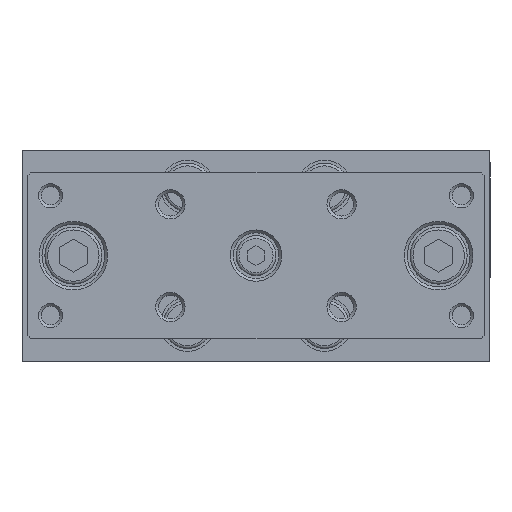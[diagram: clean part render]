
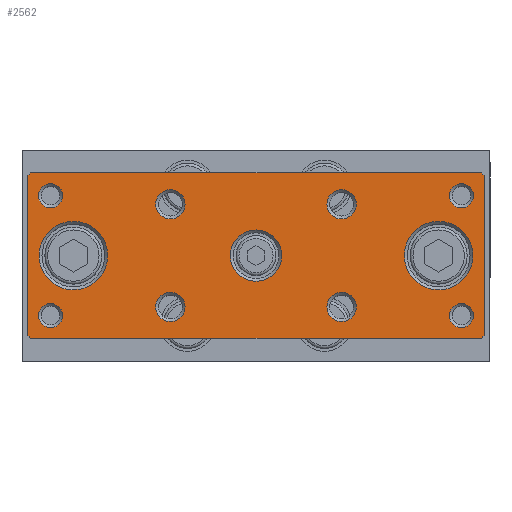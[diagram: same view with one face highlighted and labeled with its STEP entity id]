
A CAD part, top view. The second image highlights one B-rep face of the part: STEP entity #2562.
In plain terms, the highlighted planar face has unit normal (0, 0, 1).
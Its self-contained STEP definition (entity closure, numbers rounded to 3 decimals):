
#2366=CARTESIAN_POINT('',(-12.193,-7.317,139.5));
#2367=VERTEX_POINT('',#2366);
#2368=CARTESIAN_POINT('',(-14.76,-7.317,139.5));
#2369=DIRECTION('',(0.0,0.0,1.0));
#2370=DIRECTION('',(-1.0,0.0,0.0));
#2371=AXIS2_PLACEMENT_3D('',#2368,#2369,#2370);
#2372=CIRCLE('',#2371,2.567);
#2373=EDGE_CURVE('',#2367,#2367,#2372,.T.);
#2378=CARTESIAN_POINT('',(-39.76,1.683,139.5));
#2379=DIRECTION('',(0.0,0.0,1.0));
#2380=DIRECTION('',(1.0,0.0,0.0));
#2381=AXIS2_PLACEMENT_3D('',#2378,#2379,#2380);
#2382=PLANE('',#2381);
#2383=CARTESIAN_POINT('',(-39.76,15.683,139.5));
#2384=VERTEX_POINT('',#2383);
#2385=CARTESIAN_POINT('',(-39.26,16.183,139.5));
#2386=VERTEX_POINT('',#2385);
#2387=CARTESIAN_POINT('',(-39.76,15.683,139.5));
#2388=DIRECTION('',(0.707,0.707,0.0));
#2389=VECTOR('',#2388,0.707);
#2390=LINE('',#2387,#2389);
#2391=EDGE_CURVE('',#2384,#2386,#2390,.T.);
#2392=ORIENTED_EDGE('',*,*,#2391,.F.);
#2393=CARTESIAN_POINT('',(-39.76,-12.317,139.5));
#2394=VERTEX_POINT('',#2393);
#2395=CARTESIAN_POINT('',(-39.76,15.683,139.5));
#2396=DIRECTION('',(0.0,-1.0,0.0));
#2397=VECTOR('',#2396,28.);
#2398=LINE('',#2395,#2397);
#2399=EDGE_CURVE('',#2384,#2394,#2398,.T.);
#2400=ORIENTED_EDGE('',*,*,#2399,.T.);
#2401=CARTESIAN_POINT('',(-39.26,-12.817,139.5));
#2402=VERTEX_POINT('',#2401);
#2403=CARTESIAN_POINT('',(-39.26,-12.817,139.5));
#2404=DIRECTION('',(-0.707,0.707,0.0));
#2405=VECTOR('',#2404,0.707);
#2406=LINE('',#2403,#2405);
#2407=EDGE_CURVE('',#2402,#2394,#2406,.T.);
#2408=ORIENTED_EDGE('',*,*,#2407,.F.);
#2409=CARTESIAN_POINT('',(39.74,-12.817,139.5));
#2410=VERTEX_POINT('',#2409);
#2411=CARTESIAN_POINT('',(-39.26,-12.817,139.5));
#2412=DIRECTION('',(1.0,0.0,0.0));
#2413=VECTOR('',#2412,79.);
#2414=LINE('',#2411,#2413);
#2415=EDGE_CURVE('',#2402,#2410,#2414,.T.);
#2416=ORIENTED_EDGE('',*,*,#2415,.T.);
#2417=CARTESIAN_POINT('',(40.24,-12.317,139.5));
#2418=VERTEX_POINT('',#2417);
#2419=CARTESIAN_POINT('',(40.24,-12.317,139.5));
#2420=DIRECTION('',(-0.707,-0.707,0.0));
#2421=VECTOR('',#2420,0.707);
#2422=LINE('',#2419,#2421);
#2423=EDGE_CURVE('',#2418,#2410,#2422,.T.);
#2424=ORIENTED_EDGE('',*,*,#2423,.F.);
#2425=CARTESIAN_POINT('',(40.24,15.683,139.5));
#2426=VERTEX_POINT('',#2425);
#2427=CARTESIAN_POINT('',(40.24,-12.317,139.5));
#2428=DIRECTION('',(0.0,1.0,0.0));
#2429=VECTOR('',#2428,28.);
#2430=LINE('',#2427,#2429);
#2431=EDGE_CURVE('',#2418,#2426,#2430,.T.);
#2432=ORIENTED_EDGE('',*,*,#2431,.T.);
#2433=CARTESIAN_POINT('',(39.74,16.183,139.5));
#2434=VERTEX_POINT('',#2433);
#2435=CARTESIAN_POINT('',(39.74,16.183,139.5));
#2436=DIRECTION('',(0.707,-0.707,0.0));
#2437=VECTOR('',#2436,0.707);
#2438=LINE('',#2435,#2437);
#2439=EDGE_CURVE('',#2434,#2426,#2438,.T.);
#2440=ORIENTED_EDGE('',*,*,#2439,.F.);
#2441=CARTESIAN_POINT('',(39.74,16.183,139.5));
#2442=DIRECTION('',(-1.0,0.0,0.0));
#2443=VECTOR('',#2442,79.);
#2444=LINE('',#2441,#2443);
#2445=EDGE_CURVE('',#2434,#2386,#2444,.T.);
#2446=ORIENTED_EDGE('',*,*,#2445,.T.);
#2447=EDGE_LOOP('',(#2392,#2400,#2408,#2416,#2424,#2432,#2440,#2446));
#2448=FACE_OUTER_BOUND('',#2447,.T.);
#2449=CARTESIAN_POINT('',(17.807,10.683,139.5));
#2450=VERTEX_POINT('',#2449);
#2451=CARTESIAN_POINT('',(15.24,10.683,139.5));
#2452=DIRECTION('',(0.0,0.0,1.0));
#2453=DIRECTION('',(-1.0,0.0,0.0));
#2454=AXIS2_PLACEMENT_3D('',#2451,#2452,#2453);
#2455=CIRCLE('',#2454,2.567);
#2456=EDGE_CURVE('',#2450,#2450,#2455,.T.);
#2457=ORIENTED_EDGE('',*,*,#2456,.F.);
#2458=EDGE_LOOP('',(#2457));
#2459=FACE_BOUND('',#2458,.T.);
#2460=CARTESIAN_POINT('',(-12.193,10.683,139.5));
#2461=VERTEX_POINT('',#2460);
#2462=CARTESIAN_POINT('',(-14.76,10.683,139.5));
#2463=DIRECTION('',(0.0,0.0,1.0));
#2464=DIRECTION('',(-1.0,0.0,0.0));
#2465=AXIS2_PLACEMENT_3D('',#2462,#2463,#2464);
#2466=CIRCLE('',#2465,2.567);
#2467=EDGE_CURVE('',#2461,#2461,#2466,.T.);
#2468=ORIENTED_EDGE('',*,*,#2467,.F.);
#2469=EDGE_LOOP('',(#2468));
#2470=FACE_BOUND('',#2469,.T.);
#2471=CARTESIAN_POINT('',(4.74,1.683,139.5));
#2472=VERTEX_POINT('',#2471);
#2473=CARTESIAN_POINT('',(0.24,1.683,139.5));
#2474=DIRECTION('',(0.0,0.0,1.0));
#2475=DIRECTION('',(-1.0,0.0,0.0));
#2476=AXIS2_PLACEMENT_3D('',#2473,#2474,#2475);
#2477=CIRCLE('',#2476,4.5);
#2478=EDGE_CURVE('',#2472,#2472,#2477,.T.);
#2479=ORIENTED_EDGE('',*,*,#2478,.F.);
#2480=EDGE_LOOP('',(#2479));
#2481=FACE_BOUND('',#2480,.T.);
#2482=CARTESIAN_POINT('',(-25.76,1.683,139.5));
#2483=VERTEX_POINT('',#2482);
#2484=CARTESIAN_POINT('',(-31.76,1.683,139.5));
#2485=DIRECTION('',(0.0,0.0,1.0));
#2486=DIRECTION('',(-1.0,0.0,0.0));
#2487=AXIS2_PLACEMENT_3D('',#2484,#2485,#2486);
#2488=CIRCLE('',#2487,6.);
#2489=EDGE_CURVE('',#2483,#2483,#2488,.T.);
#2490=ORIENTED_EDGE('',*,*,#2489,.F.);
#2491=EDGE_LOOP('',(#2490));
#2492=FACE_BOUND('',#2491,.T.);
#2493=CARTESIAN_POINT('',(38.24,1.683,139.5));
#2494=VERTEX_POINT('',#2493);
#2495=CARTESIAN_POINT('',(32.24,1.683,139.5));
#2496=DIRECTION('',(0.0,0.0,1.0));
#2497=DIRECTION('',(-1.0,0.0,0.0));
#2498=AXIS2_PLACEMENT_3D('',#2495,#2496,#2497);
#2499=CIRCLE('',#2498,6.);
#2500=EDGE_CURVE('',#2494,#2494,#2499,.T.);
#2501=ORIENTED_EDGE('',*,*,#2500,.F.);
#2502=EDGE_LOOP('',(#2501));
#2503=FACE_BOUND('',#2502,.T.);
#2504=CARTESIAN_POINT('',(38.361,-8.817,139.5));
#2505=VERTEX_POINT('',#2504);
#2506=CARTESIAN_POINT('',(36.24,-8.817,139.5));
#2507=DIRECTION('',(0.0,0.0,1.0));
#2508=DIRECTION('',(-1.0,0.0,0.0));
#2509=AXIS2_PLACEMENT_3D('',#2506,#2507,#2508);
#2510=CIRCLE('',#2509,2.121);
#2511=EDGE_CURVE('',#2505,#2505,#2510,.T.);
#2512=ORIENTED_EDGE('',*,*,#2511,.F.);
#2513=EDGE_LOOP('',(#2512));
#2514=FACE_BOUND('',#2513,.T.);
#2515=CARTESIAN_POINT('',(38.361,12.183,139.5));
#2516=VERTEX_POINT('',#2515);
#2517=CARTESIAN_POINT('',(36.24,12.183,139.5));
#2518=DIRECTION('',(0.0,0.0,1.0));
#2519=DIRECTION('',(-1.0,0.0,0.0));
#2520=AXIS2_PLACEMENT_3D('',#2517,#2518,#2519);
#2521=CIRCLE('',#2520,2.121);
#2522=EDGE_CURVE('',#2516,#2516,#2521,.T.);
#2523=ORIENTED_EDGE('',*,*,#2522,.F.);
#2524=EDGE_LOOP('',(#2523));
#2525=FACE_BOUND('',#2524,.T.);
#2526=CARTESIAN_POINT('',(-33.639,-8.817,139.5));
#2527=VERTEX_POINT('',#2526);
#2528=CARTESIAN_POINT('',(-35.76,-8.817,139.5));
#2529=DIRECTION('',(0.0,0.0,1.0));
#2530=DIRECTION('',(-1.0,0.0,0.0));
#2531=AXIS2_PLACEMENT_3D('',#2528,#2529,#2530);
#2532=CIRCLE('',#2531,2.121);
#2533=EDGE_CURVE('',#2527,#2527,#2532,.T.);
#2534=ORIENTED_EDGE('',*,*,#2533,.F.);
#2535=EDGE_LOOP('',(#2534));
#2536=FACE_BOUND('',#2535,.T.);
#2537=CARTESIAN_POINT('',(-33.639,12.183,139.5));
#2538=VERTEX_POINT('',#2537);
#2539=CARTESIAN_POINT('',(-35.76,12.183,139.5));
#2540=DIRECTION('',(0.0,0.0,1.0));
#2541=DIRECTION('',(-1.0,0.0,0.0));
#2542=AXIS2_PLACEMENT_3D('',#2539,#2540,#2541);
#2543=CIRCLE('',#2542,2.121);
#2544=EDGE_CURVE('',#2538,#2538,#2543,.T.);
#2545=ORIENTED_EDGE('',*,*,#2544,.F.);
#2546=EDGE_LOOP('',(#2545));
#2547=FACE_BOUND('',#2546,.T.);
#2548=CARTESIAN_POINT('',(17.807,-7.317,139.5));
#2549=VERTEX_POINT('',#2548);
#2550=CARTESIAN_POINT('',(15.24,-7.317,139.5));
#2551=DIRECTION('',(0.0,0.0,1.0));
#2552=DIRECTION('',(-1.0,0.0,0.0));
#2553=AXIS2_PLACEMENT_3D('',#2550,#2551,#2552);
#2554=CIRCLE('',#2553,2.567);
#2555=EDGE_CURVE('',#2549,#2549,#2554,.T.);
#2556=ORIENTED_EDGE('',*,*,#2555,.F.);
#2557=EDGE_LOOP('',(#2556));
#2558=FACE_BOUND('',#2557,.T.);
#2559=ORIENTED_EDGE('',*,*,#2373,.F.);
#2560=EDGE_LOOP('',(#2559));
#2561=FACE_BOUND('',#2560,.T.);
#2562=ADVANCED_FACE('',(#2448,#2459,#2470,#2481,#2492,#2503,#2514,#2525,#2536,#2547,#2558,#2561),#2382,.T.);
